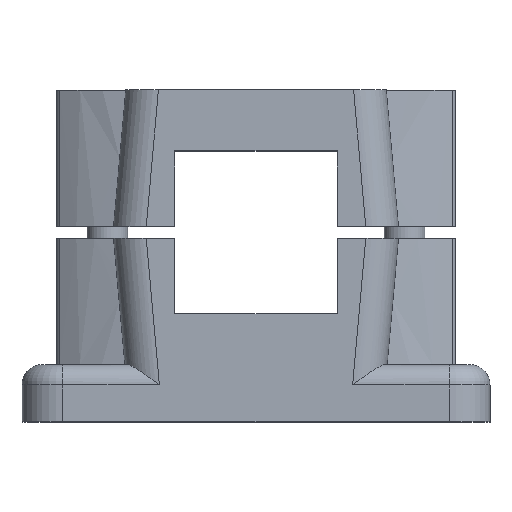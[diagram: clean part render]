
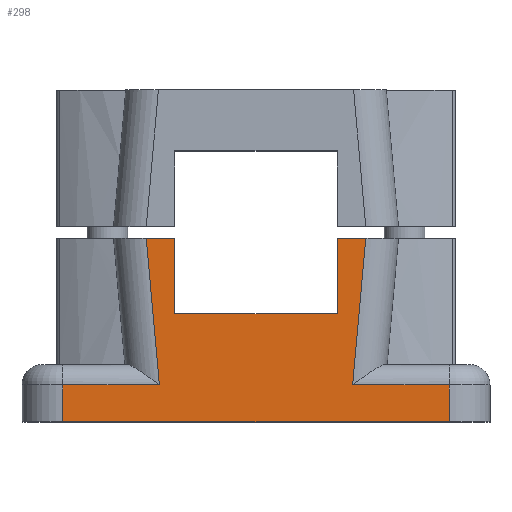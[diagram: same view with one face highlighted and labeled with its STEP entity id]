
A CAD part, top view. The second image highlights one B-rep face of the part: STEP entity #298.
In plain terms, the highlighted planar face has unit normal (0, 0, 1).
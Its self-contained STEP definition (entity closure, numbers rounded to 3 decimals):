
#298 = ADVANCED_FACE( '', ( #805 ), #806, .T. );
#805 = FACE_OUTER_BOUND( '', #1325, .T. );
#806 = PLANE( '', #1326 );
#1325 = EDGE_LOOP( '', ( #3122, #3123, #3124, #3125, #3126, #3127, #3128, #3129, #3130, #3131, #3132, #3133 ) );
#1326 = AXIS2_PLACEMENT_3D( '', #3134, #3135, #3136 );
#3122 = ORIENTED_EDGE( '', *, *, #3840, .T. );
#3123 = ORIENTED_EDGE( '', *, *, #3467, .T. );
#3124 = ORIENTED_EDGE( '', *, *, #3648, .T. );
#3125 = ORIENTED_EDGE( '', *, *, #3838, .F. );
#3126 = ORIENTED_EDGE( '', *, *, #3836, .T. );
#3127 = ORIENTED_EDGE( '', *, *, #3435, .T. );
#3128 = ORIENTED_EDGE( '', *, *, #3788, .F. );
#3129 = ORIENTED_EDGE( '', *, *, #3424, .F. );
#3130 = ORIENTED_EDGE( '', *, *, #3260, .T. );
#3131 = ORIENTED_EDGE( '', *, *, #3839, .T. );
#3132 = ORIENTED_EDGE( '', *, *, #3638, .T. );
#3133 = ORIENTED_EDGE( '', *, *, #3841, .T. );
#3134 = CARTESIAN_POINT( '', ( 0., 0., 38. ) );
#3135 = DIRECTION( '', ( 0., 0., 1. ) );
#3136 = DIRECTION( '', ( 1., 0., 0. ) );
#3260 = EDGE_CURVE( '', #3871, #3869, #3872, .T. );
#3424 = EDGE_CURVE( '', #3871, #4164, #4165, .T. );
#3435 = EDGE_CURVE( '', #4177, #4180, #4182, .T. );
#3467 = EDGE_CURVE( '', #4240, #4238, #4241, .T. );
#3638 = EDGE_CURVE( '', #4531, #4529, #4532, .T. );
#3648 = EDGE_CURVE( '', #4238, #4550, #4551, .T. );
#3788 = EDGE_CURVE( '', #4164, #4180, #4790, .T. );
#3836 = EDGE_CURVE( '', #4840, #4177, #4841, .T. );
#3838 = EDGE_CURVE( '', #4840, #4550, #4843, .T. );
#3839 = EDGE_CURVE( '', #3869, #4531, #4844, .T. );
#3840 = EDGE_CURVE( '', #4845, #4240, #4846, .T. );
#3841 = EDGE_CURVE( '', #4529, #4845, #4847, .T. );
#3869 = VERTEX_POINT( '', #4922 );
#3871 = VERTEX_POINT( '', #4945 );
#3872 = LINE( '', #4946, #4947 );
#4164 = VERTEX_POINT( '', #5331 );
#4165 = LINE( '', #5332, #5333 );
#4177 = VERTEX_POINT( '', #5346 );
#4180 = VERTEX_POINT( '', #5349 );
#4182 = LINE( '', #5351, #5352 );
#4238 = VERTEX_POINT( '', #5424 );
#4240 = VERTEX_POINT( '', #5427 );
#4241 = LINE( '', #5428, #5429 );
#4529 = VERTEX_POINT( '', #5836 );
#4531 = VERTEX_POINT( '', #5839 );
#4532 = LINE( '', #5840, #5841 );
#4550 = VERTEX_POINT( '', #5862 );
#4551 = LINE( '', #5863, #5864 );
#4790 = LINE( '', #6219, #6220 );
#4840 = VERTEX_POINT( '', #6310 );
#4841 = LINE( '', #6311, #6312 );
#4843 = LINE( '', #6335, #6336 );
#4844 = LINE( '', #6337, #6338 );
#4845 = VERTEX_POINT( '', #6339 );
#4846 = LINE( '', #6340, #6341 );
#4847 = LINE( '', #6342, #6343 );
#4922 = CARTESIAN_POINT( '', ( 23.749, -37.5, 38. ) );
#4945 = CARTESIAN_POINT( '', ( 47.5, -37.5, 38. ) );
#4946 = CARTESIAN_POINT( '', ( 47.5, -37.5, 38. ) );
#4947 = VECTOR( '', #6369, 1000. );
#5331 = CARTESIAN_POINT( '', ( 47.5, -46.5, 38. ) );
#5332 = CARTESIAN_POINT( '', ( 47.5, -37.5, 38. ) );
#5333 = VECTOR( '', #6675, 1000. );
#5346 = CARTESIAN_POINT( '', ( -47.5, -37.5, 38. ) );
#5349 = CARTESIAN_POINT( '', ( -47.5, -46.5, 38. ) );
#5351 = CARTESIAN_POINT( '', ( -47.5, -37.5, 38. ) );
#5352 = VECTOR( '', #6704, 1000. );
#5424 = CARTESIAN_POINT( '', ( -20., -1.5, 38. ) );
#5427 = CARTESIAN_POINT( '', ( -20., -20., 38. ) );
#5428 = CARTESIAN_POINT( '', ( -20., 0., 38. ) );
#5429 = VECTOR( '', #6764, 1000. );
#5836 = CARTESIAN_POINT( '', ( 20., -1.5, 38. ) );
#5839 = CARTESIAN_POINT( '', ( 26.973, -1.5, 38. ) );
#5840 = CARTESIAN_POINT( '', ( 0., -1.5, 38. ) );
#5841 = VECTOR( '', #7035, 1000. );
#5862 = CARTESIAN_POINT( '', ( -26.973, -1.5, 38. ) );
#5863 = CARTESIAN_POINT( '', ( 0., -1.5, 38. ) );
#5864 = VECTOR( '', #7057, 1000. );
#6219 = CARTESIAN_POINT( '', ( 47.5, -46.5, 38. ) );
#6220 = VECTOR( '', #7243, 1000. );
#6310 = CARTESIAN_POINT( '', ( -23.749, -37.5, 38. ) );
#6311 = CARTESIAN_POINT( '', ( 47.5, -37.5, 38. ) );
#6312 = VECTOR( '', #7305, 1000. );
#6335 = CARTESIAN_POINT( '', ( -23.693, -38.131, 38. ) );
#6336 = VECTOR( '', #7306, 1000. );
#6337 = CARTESIAN_POINT( '', ( 23.693, -38.131, 38. ) );
#6338 = VECTOR( '', #7307, 1000. );
#6339 = CARTESIAN_POINT( '', ( 20., -20., 38. ) );
#6340 = CARTESIAN_POINT( '', ( 0., -20., 38. ) );
#6341 = VECTOR( '', #7308, 1000. );
#6342 = CARTESIAN_POINT( '', ( 20., 0., 38. ) );
#6343 = VECTOR( '', #7309, 1000. );
#6369 = DIRECTION( '', ( -1., 0., 0. ) );
#6675 = DIRECTION( '', ( 0., -1., 0. ) );
#6704 = DIRECTION( '', ( 0., -1., 0. ) );
#6764 = DIRECTION( '', ( 0., 1., 0. ) );
#7035 = DIRECTION( '', ( -1., 0., 0. ) );
#7057 = DIRECTION( '', ( -1., 0., 0. ) );
#7243 = DIRECTION( '', ( -1., 0., 0. ) );
#7305 = DIRECTION( '', ( -1., 0., 0. ) );
#7306 = DIRECTION( '', ( -0.089, 0.996, 0. ) );
#7307 = DIRECTION( '', ( 0.089, 0.996, 0. ) );
#7308 = DIRECTION( '', ( -1., 0., 0. ) );
#7309 = DIRECTION( '', ( 0., -1., 0. ) );
